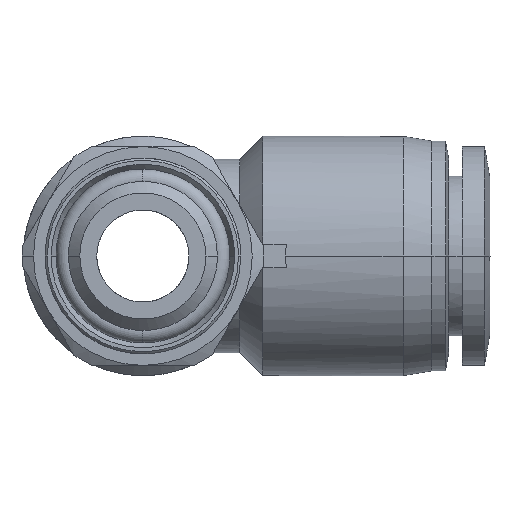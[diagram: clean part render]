
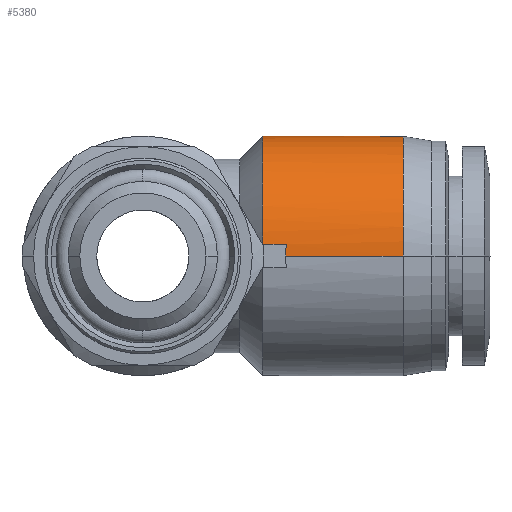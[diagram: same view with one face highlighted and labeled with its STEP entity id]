
A CAD part, front view. The second image highlights one B-rep face of the part: STEP entity #5380.
In plain terms, the highlighted cylindrical face has radius 10.4 mm (diameter 20.8 mm), a partial arc.
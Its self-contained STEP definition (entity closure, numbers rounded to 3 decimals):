
#101 = LINE ( 'NONE', #5907, #1674 ) ;
#111 = B_SPLINE_CURVE_WITH_KNOTS ( 'NONE', 3,
 ( #5397, #1079, #4449, #2527 ),
 .UNSPECIFIED., .F., .F.,
 ( 4, 4 ),
 ( 0., 1. ),
 .UNSPECIFIED. ) ;
#301 = CARTESIAN_POINT ( 'NONE',  ( 10.4, 26.837, 6.84 ) ) ;
#330 = CARTESIAN_POINT ( 'NONE',  ( 22.6, 8.771, 2.722 ) ) ;
#417 = CARTESIAN_POINT ( 'NONE',  ( 22.6, 27.217, 6.391 ) ) ;
#469 = CARTESIAN_POINT ( 'NONE',  ( 12.4, 8.5, 0.333 ) ) ;
#514 = FACE_OUTER_BOUND ( 'NONE', #2387, .T. ) ;
#549 = VERTEX_POINT ( 'NONE', #2839 ) ;
#615 = CARTESIAN_POINT ( 'NONE',  ( 12.4, 8.5, 0. ) ) ;
#707 = ORIENTED_EDGE ( 'NONE', *, *, #3354, .T. ) ;
#710 = B_SPLINE_CURVE_WITH_KNOTS ( 'NONE', 3,
 ( #3038, #2072, #2569, #4021 ),
 .UNSPECIFIED., .F., .F.,
 ( 4, 4 ),
 ( 0.5, 1. ),
 .UNSPECIFIED. ) ;
#767 = CARTESIAN_POINT ( 'NONE',  ( 10.4, 10.177, 5.805 ) ) ;
#770 = CARTESIAN_POINT ( 'NONE',  ( 13.3, 29.3, 0. ) ) ;
#855 = CARTESIAN_POINT ( 'NONE',  ( 10.4, 10.963, 6.84 ) ) ;
#883 = CARTESIAN_POINT ( 'NONE',  ( 10.4, 12.855, 8.558 ) ) ;
#957 = DIRECTION ( 'NONE',  ( 0., 1., 0. ) ) ;
#1079 = CARTESIAN_POINT ( 'NONE',  ( 11.383, 29.252, 1. ) ) ;
#1248 = CARTESIAN_POINT ( 'NONE',  ( 10.4, 24.945, 8.558 ) ) ;
#1313 = CARTESIAN_POINT ( 'NONE',  ( 10.4, 20.178, 10.4 ) ) ;
#1341 = CARTESIAN_POINT ( 'NONE',  ( 22.6, 24.138, 9.087 ) ) ;
#1488 = CARTESIAN_POINT ( 'NONE',  ( 12.4, 8.5, 0. ) ) ;
#1620 = ORIENTED_EDGE ( 'NONE', *, *, #4186, .T. ) ;
#1674 = VECTOR ( 'NONE', #3030, 1000. ) ;
#1755 = CARTESIAN_POINT ( 'NONE',  ( 22.6, 8.5, 0. ) ) ;
#1756 = B_SPLINE_CURVE_WITH_KNOTS ( 'NONE', 3,
 ( #1488, #469, #4813, #5351 ),
 .UNSPECIFIED., .F., .F.,
 ( 4, 4 ),
 ( 0.5, 1. ),
 .UNSPECIFIED. ) ;
#1766 = B_SPLINE_CURVE_WITH_KNOTS ( 'NONE', 3,
 ( #6206, #2826, #4283, #4748 ),
 .UNSPECIFIED., .F., .F.,
 ( 4, 4 ),
 ( 0., 1. ),
 .UNSPECIFIED. ) ;
#1789 = CARTESIAN_POINT ( 'NONE',  ( 22.6, 10.583, 6.391 ) ) ;
#1815 = CARTESIAN_POINT ( 'NONE',  ( 10.4, 9.031, 3.521 ) ) ;
#1849 = CARTESIAN_POINT ( 'NONE',  ( 22.6, 9.813, 5.238 ) ) ;
#2072 = CARTESIAN_POINT ( 'NONE',  ( 13.3, 29.3, 0.334 ) ) ;
#2084 = B_SPLINE_CURVE_WITH_KNOTS ( 'NONE', 3,
 ( #4732, #2316, #2781, #4142, #417, #4706, #1341, #4231, #2345, #6096, #4640, #6155, #4613, #1789, #1849, #330, #4262, #1755 ),
 .UNSPECIFIED., .F., .F.,
 ( 4, 2, 2, 2, 2, 2, 2, 2, 4 ),
 ( 0., 0.063, 0.125, 0.187, 0.25, 0.312, 0.375, 0.437, 0.5 ),
 .UNSPECIFIED. ) ;
#2159 = ORIENTED_EDGE ( 'NONE', *, *, #3551, .F. ) ;
#2168 = VERTEX_POINT ( 'NONE', #6082 ) ;
#2227 = CARTESIAN_POINT ( 'NONE',  ( 10.4, 28.769, 3.521 ) ) ;
#2258 = CARTESIAN_POINT ( 'NONE',  ( 10.4, 8.671, 2.272 ) ) ;
#2273 = VECTOR ( 'NONE', #4343, 1000. ) ;
#2316 = CARTESIAN_POINT ( 'NONE',  ( 22.6, 29.3, 1.361 ) ) ;
#2345 = CARTESIAN_POINT ( 'NONE',  ( 22.6, 20.261, 10.4 ) ) ;
#2387 = EDGE_LOOP ( 'NONE', ( #5256, #3180, #3465, #2652, #707, #2159, #1620, #3687 ) ) ;
#2411 = CARTESIAN_POINT ( 'NONE',  ( 16.5, 18.9, 0. ) ) ;
#2527 = CARTESIAN_POINT ( 'NONE',  ( 13.348, 29.252, 1. ) ) ;
#2569 = CARTESIAN_POINT ( 'NONE',  ( 13.316, 29.284, 0.667 ) ) ;
#2601 = B_SPLINE_CURVE_WITH_KNOTS ( 'NONE', 3,
 ( #6066, #6125, #2227, #5146, #301, #1248, #3226, #2723, #1313, #5683, #3164, #5090, #883, #855, #767, #1815, #2258, #2811 ),
 .UNSPECIFIED., .F., .F.,
 ( 4, 2, 2, 2, 2, 2, 2, 2, 4 ),
 ( 0., 0.125, 0.25, 0.375, 0.5, 0.625, 0.75, 0.875, 1. ),
 .UNSPECIFIED. ) ;
#2652 = ORIENTED_EDGE ( 'NONE', *, *, #3518, .F. ) ;
#2723 = CARTESIAN_POINT ( 'NONE',  ( 10.4, 21.455, 10.162 ) ) ;
#2781 = CARTESIAN_POINT ( 'NONE',  ( 22.6, 29.029, 2.722 ) ) ;
#2799 = CARTESIAN_POINT ( 'NONE',  ( 16.5, 8.5, 0. ) ) ;
#2811 = CARTESIAN_POINT ( 'NONE',  ( 10.4, 8.548, 1. ) ) ;
#2826 = CARTESIAN_POINT ( 'NONE',  ( 11.765, 8.548, 1. ) ) ;
#2839 = CARTESIAN_POINT ( 'NONE',  ( 10.4, 8.548, 1. ) ) ;
#2855 = CARTESIAN_POINT ( 'NONE',  ( 12.448, 8.548, 1. ) ) ;
#2957 = CARTESIAN_POINT ( 'NONE',  ( 13.348, 29.252, 1. ) ) ;
#2994 = VERTEX_POINT ( 'NONE', #4695 ) ;
#3030 = DIRECTION ( 'NONE',  ( 1., 0., 0. ) ) ;
#3038 = CARTESIAN_POINT ( 'NONE',  ( 13.3, 29.3, 0. ) ) ;
#3164 = CARTESIAN_POINT ( 'NONE',  ( 10.4, 16.345, 10.162 ) ) ;
#3180 = ORIENTED_EDGE ( 'NONE', *, *, #3733, .T. ) ;
#3226 = CARTESIAN_POINT ( 'NONE',  ( 10.4, 23.84, 9.241 ) ) ;
#3289 = CYLINDRICAL_SURFACE ( 'NONE', #6166, 10.4 ) ;
#3331 = LINE ( 'NONE', #2799, #2273 ) ;
#3354 = EDGE_CURVE ( 'NONE', #5186, #5864, #710, .T. ) ;
#3465 = ORIENTED_EDGE ( 'NONE', *, *, #4219, .F. ) ;
#3518 = EDGE_CURVE ( 'NONE', #5186, #5294, #101, .T. ) ;
#3551 = EDGE_CURVE ( 'NONE', #2168, #5864, #111, .T. ) ;
#3687 = ORIENTED_EDGE ( 'NONE', *, *, #3775, .F. ) ;
#3733 = EDGE_CURVE ( 'NONE', #6217, #2994, #3331, .T. ) ;
#3775 = EDGE_CURVE ( 'NONE', #5766, #549, #1766, .T. ) ;
#4021 = CARTESIAN_POINT ( 'NONE',  ( 13.348, 29.252, 1. ) ) ;
#4142 = CARTESIAN_POINT ( 'NONE',  ( 22.6, 27.987, 5.238 ) ) ;
#4186 = EDGE_CURVE ( 'NONE', #2168, #549, #2601, .T. ) ;
#4219 = EDGE_CURVE ( 'NONE', #5294, #2994, #2084, .T. ) ;
#4231 = CARTESIAN_POINT ( 'NONE',  ( 22.6, 21.622, 10.129 ) ) ;
#4262 = CARTESIAN_POINT ( 'NONE',  ( 22.6, 8.5, 1.361 ) ) ;
#4283 = CARTESIAN_POINT ( 'NONE',  ( 11.083, 8.548, 1. ) ) ;
#4343 = DIRECTION ( 'NONE',  ( 1., 0., 0. ) ) ;
#4449 = CARTESIAN_POINT ( 'NONE',  ( 12.365, 29.252, 1. ) ) ;
#4613 = CARTESIAN_POINT ( 'NONE',  ( 22.6, 12.509, 8.317 ) ) ;
#4640 = CARTESIAN_POINT ( 'NONE',  ( 22.6, 16.178, 10.129 ) ) ;
#4695 = CARTESIAN_POINT ( 'NONE',  ( 22.6, 8.5, 0. ) ) ;
#4706 = CARTESIAN_POINT ( 'NONE',  ( 22.6, 25.291, 8.317 ) ) ;
#4732 = CARTESIAN_POINT ( 'NONE',  ( 22.6, 29.3, 0. ) ) ;
#4748 = CARTESIAN_POINT ( 'NONE',  ( 10.4, 8.548, 1. ) ) ;
#4813 = CARTESIAN_POINT ( 'NONE',  ( 12.416, 8.516, 0.667 ) ) ;
#5090 = CARTESIAN_POINT ( 'NONE',  ( 10.4, 13.96, 9.241 ) ) ;
#5146 = CARTESIAN_POINT ( 'NONE',  ( 10.4, 27.623, 5.805 ) ) ;
#5186 = VERTEX_POINT ( 'NONE', #770 ) ;
#5256 = ORIENTED_EDGE ( 'NONE', *, *, #5826, .F. ) ;
#5294 = VERTEX_POINT ( 'NONE', #6158 ) ;
#5351 = CARTESIAN_POINT ( 'NONE',  ( 12.448, 8.548, 1. ) ) ;
#5380 = ADVANCED_FACE ( 'NONE', ( #514 ), #3289, .T. ) ;
#5397 = CARTESIAN_POINT ( 'NONE',  ( 10.4, 29.252, 1. ) ) ;
#5683 = CARTESIAN_POINT ( 'NONE',  ( 10.4, 17.622, 10.4 ) ) ;
#5766 = VERTEX_POINT ( 'NONE', #2855 ) ;
#5826 = EDGE_CURVE ( 'NONE', #6217, #5766, #1756, .T. ) ;
#5864 = VERTEX_POINT ( 'NONE', #2957 ) ;
#5907 = CARTESIAN_POINT ( 'NONE',  ( 16.5, 29.3, 0. ) ) ;
#6066 = CARTESIAN_POINT ( 'NONE',  ( 10.4, 29.252, 1. ) ) ;
#6082 = CARTESIAN_POINT ( 'NONE',  ( 10.4, 29.252, 1. ) ) ;
#6096 = CARTESIAN_POINT ( 'NONE',  ( 22.6, 17.539, 10.4 ) ) ;
#6125 = CARTESIAN_POINT ( 'NONE',  ( 10.4, 29.129, 2.272 ) ) ;
#6155 = CARTESIAN_POINT ( 'NONE',  ( 22.6, 13.662, 9.087 ) ) ;
#6158 = CARTESIAN_POINT ( 'NONE',  ( 22.6, 29.3, 0. ) ) ;
#6166 = AXIS2_PLACEMENT_3D ( 'NONE', #2411, #6220, #957 ) ;
#6206 = CARTESIAN_POINT ( 'NONE',  ( 12.448, 8.548, 1. ) ) ;
#6217 = VERTEX_POINT ( 'NONE', #615 ) ;
#6220 = DIRECTION ( 'NONE',  ( 1., 0., 0. ) ) ;
